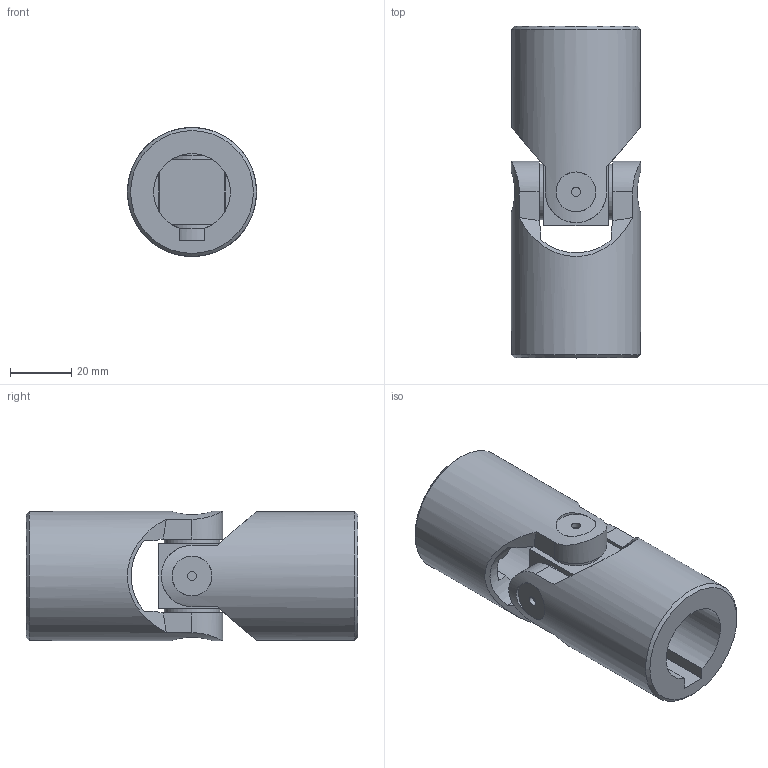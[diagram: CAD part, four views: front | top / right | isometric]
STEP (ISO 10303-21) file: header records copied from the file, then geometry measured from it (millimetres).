
FILE_DESCRIPTION(/* description */ ('EXTENSIBLE TRANSIMISSIONS Series G DIN 808 -2-'),/* implementation_level */ '2;1');
FILE_NAME(/* name */ '\\SRV2016\Societa\Stefano\Disegni 3D\Dis. Clienti\0000Catalogo 3D\01Singoli G-GB\Ø42_5GB-2C_SGBS252C.stp',/* time_stamp */ '2021-11-10T15:15:11+01:00',/* author */ ('acquisti'),/* organization */ ('MARIOFERRI'),/* preprocessor_version */ 'ST-DEVELOPER v15.6',/* originating_system */ 'Autodesk Inventor 2015',/* authorisation */ '');
FILE_SCHEMA (('AUTOMOTIVE_DESIGN { 1 0 10303 214 3 1 1 }'));
Length unit declared in the file: millimetre
Products named in the file (3): 3G SFE; 5GB MOC; Assieme8
Assembly tree (3 placements, depth 2):
  Assieme8
    3G SFE
    5GB MOC  x2
Bounding box: 42 x 108 x 42 mm (x, y, z)
Volume: 91194.1 mm3; surface area: 27724.3 mm2
Topology: 3 solids, 3 shells, 90 faces, 214 edges, 140 vertices
Faces by surface type: plane 46, cylinder 32, cone 10, torus 2
Full cylindrical faces by diameter (mm): 3 x4, 18 x4, 42 x2
Entity records: 1686 total; most frequent: CARTESIAN_POINT 518, DIRECTION 225, ORIENTED_EDGE 220, EDGE_CURVE 110, AXIS2_PLACEMENT_3D 97, VERTEX_POINT 78, EDGE_LOOP 70, FACE_OUTER_BOUND 52
